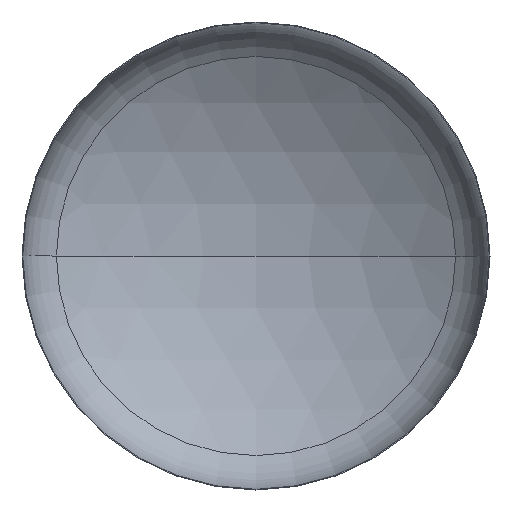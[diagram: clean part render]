
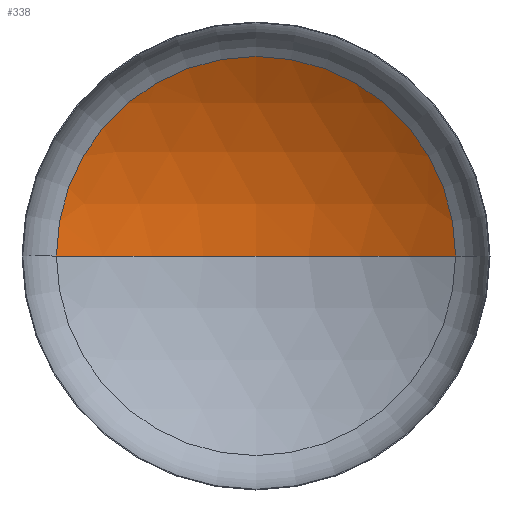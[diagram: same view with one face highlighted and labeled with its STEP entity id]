
A CAD part, front view. The second image highlights one B-rep face of the part: STEP entity #338.
In plain terms, the highlighted spherical face has radius 2720 mm.
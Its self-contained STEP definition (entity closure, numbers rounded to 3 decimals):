
#6 = EDGE_LOOP ( 'NONE', ( #68, #23, #58 ) ) ;
#23 = ORIENTED_EDGE ( 'NONE', *, *, #343, .T. ) ;
#27 = VERTEX_POINT ( 'NONE', #390 ) ;
#29 = DIRECTION ( 'NONE',  ( 0., 0., -1. ) ) ;
#35 = VERTEX_POINT ( 'NONE', #279 ) ;
#40 = AXIS2_PLACEMENT_3D ( 'NONE', #347, #148, #152 ) ;
#44 = AXIS2_PLACEMENT_3D ( 'NONE', #182, #309, #190 ) ;
#54 = AXIS2_PLACEMENT_3D ( 'NONE', #248, #29, #176 ) ;
#58 = ORIENTED_EDGE ( 'NONE', *, *, #340, .T. ) ;
#63 = AXIS2_PLACEMENT_3D ( 'NONE', #354, #206, #379 ) ;
#64 = VERTEX_POINT ( 'NONE', #386 ) ;
#68 = ORIENTED_EDGE ( 'NONE', *, *, #348, .F. ) ;
#127 = CIRCLE ( 'NONE', #44, 2720. ) ;
#148 = DIRECTION ( 'NONE',  ( 0., 0., 1. ) ) ;
#152 = DIRECTION ( 'NONE',  ( 1., 0., 0. ) ) ;
#176 = DIRECTION ( 'NONE',  ( -1., 0., 0. ) ) ;
#182 = CARTESIAN_POINT ( 'NONE',  ( 0., -1837.182, 0. ) ) ;
#190 = DIRECTION ( 'NONE',  ( -1., 0., 0. ) ) ;
#206 = DIRECTION ( 'NONE',  ( 0., -1., 0. ) ) ;
#248 = CARTESIAN_POINT ( 'NONE',  ( 0., -1837.182, 0. ) ) ;
#268 = CIRCLE ( 'NONE', #40, 2720. ) ;
#272 = FACE_OUTER_BOUND ( 'NONE', #6, .T. ) ;
#279 = CARTESIAN_POINT ( 'NONE',  ( 1449.841, 464.201, 0. ) ) ;
#309 = DIRECTION ( 'NONE',  ( 0., 0., -1. ) ) ;
#337 = SPHERICAL_SURFACE ( 'NONE', #54, 2720. ) ;
#338 = ADVANCED_FACE ( 'NONE', ( #272 ), #337, .F. ) ;
#340 = EDGE_CURVE ( 'NONE', #35, #27, #395, .T. ) ;
#343 = EDGE_CURVE ( 'NONE', #64, #35, #127, .T. ) ;
#347 = CARTESIAN_POINT ( 'NONE',  ( 0., -1837.182, 0. ) ) ;
#348 = EDGE_CURVE ( 'NONE', #64, #27, #268, .T. ) ;
#354 = CARTESIAN_POINT ( 'NONE',  ( 0., 464.201, 0. ) ) ;
#379 = DIRECTION ( 'NONE',  ( 1., 0., 0. ) ) ;
#386 = CARTESIAN_POINT ( 'NONE',  ( 0., 882.818, 0. ) ) ;
#390 = CARTESIAN_POINT ( 'NONE',  ( -1449.841, 464.201, 0. ) ) ;
#395 = CIRCLE ( 'NONE', #63, 1449.841 ) ;
